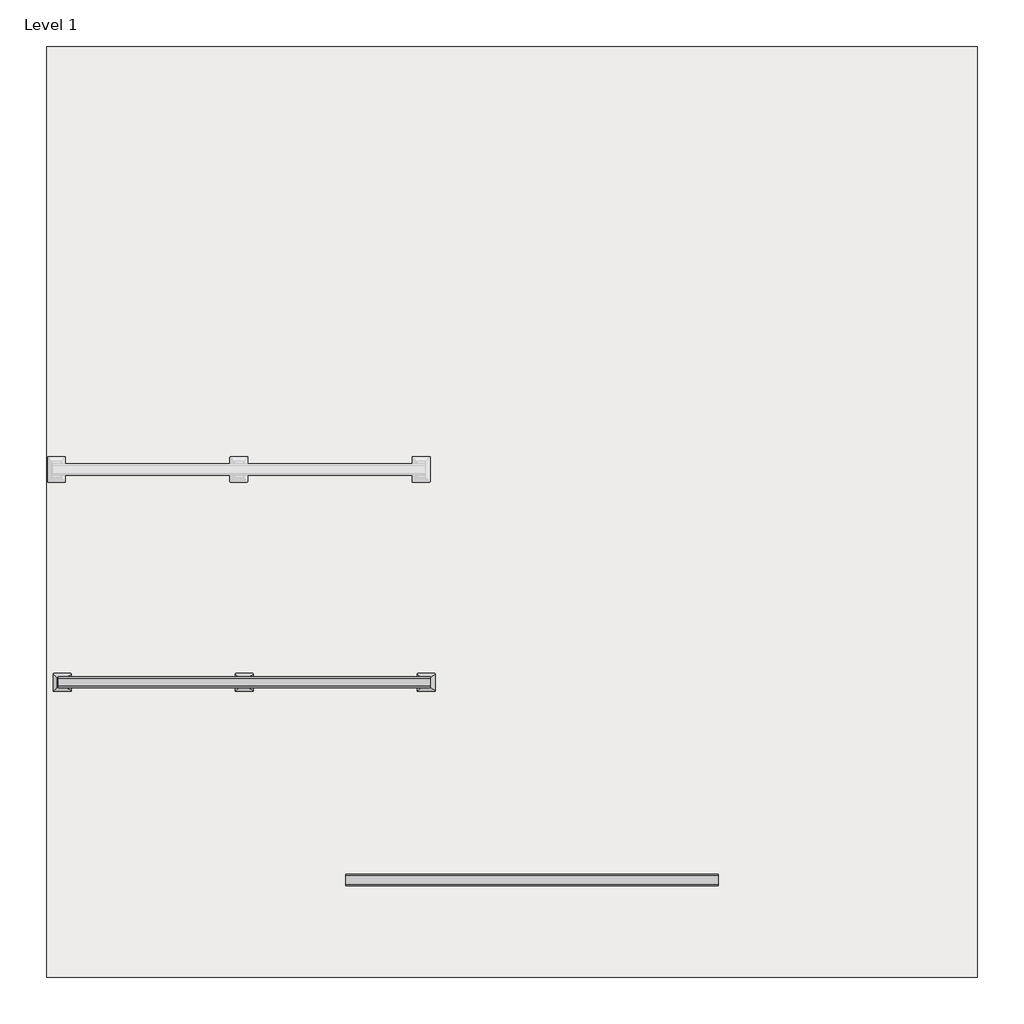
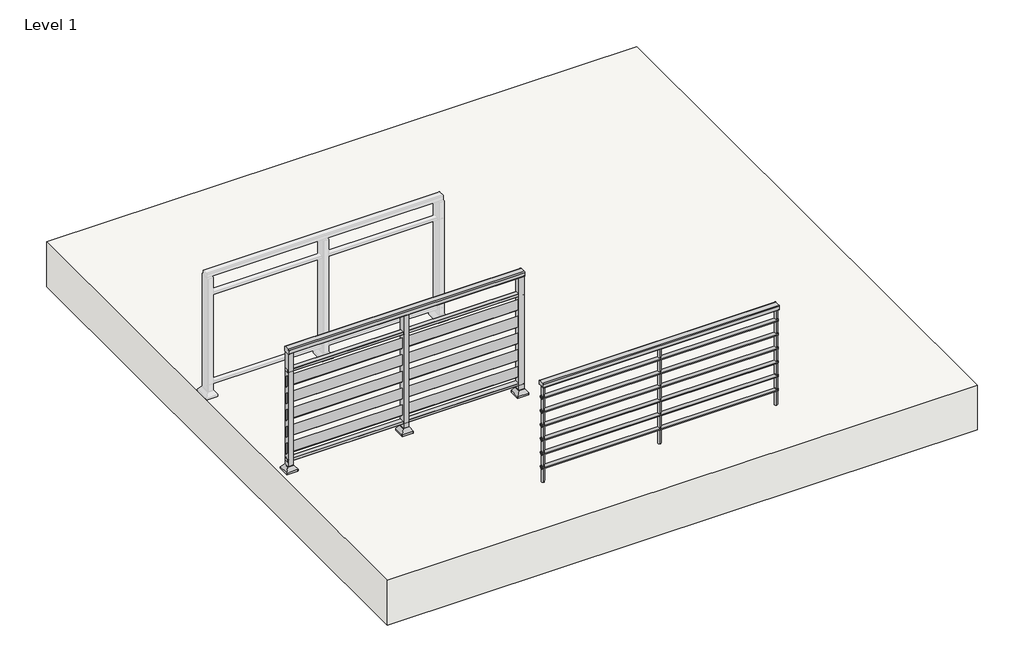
# One storey, part 1 of 2: 2 railings, 1 slab.
"""IFC4 building model written with IfcOpenShell, lengths in millimetres."""

from ifc_helpers import new_model, si_unit, point, frame, frame_2d, origin, origin_with_axes, place, context, project, spatial, polyline, circle_curve, ellipse_curve, trimmed, segment, composite_curve, outline, extrude, element, save
from ifc_brep_helpers import plane_surface, cylinder_surface, advanced_brep

model = new_model("IFC4")

# Units and contexts
model_context = context("Model", 3, world=origin())
ifc_project = project(units=[si_unit("LENGTHUNIT", "METRE", prefix="MILLI")], contexts=[model_context])

# Site, building, storey
site = spatial("IfcSite", under=ifc_project)
building = spatial("IfcBuilding", under=site)
storey = spatial("IfcBuildingStorey", under=building, Name="Level 1", Elevation=0.0)

# Railings
placement = place(None, origin())
element("IfcRailing", 1, ObjectType="900mm Pipe", at=placement, inside=storey, context=model_context, shape_type="SweptSolid", body=[
    extrude(outline(composite_curve([segment(trimmed(circle_curve(frame_2d((-3289.3435229, 892.0)), 8.0), [point((-3289.3435229, 900.0))], [point((-3281.3435229, 892.0))], False, "CARTESIAN"), True, "CONTINUOUS"), segment(polyline([(-3281.3435229, 892.0), (-3281.3435229, 864.0)]), True, "CONTINUOUS"), segment(trimmed(circle_curve(frame_2d((-3285.3435229, 864.0)), 4.0), [point((-3281.3435229, 864.0))], [point((-3285.3435229, 860.0))], False, "CARTESIAN"), True, "CONTINUOUS"), segment(polyline([(-3285.3435229, 860.0), (-3337.3435229, 860.0)]), True, "CONTINUOUS"), segment(trimmed(circle_curve(frame_2d((-3337.3435229, 864.0)), 4.0), [point((-3337.3435229, 860.0))], [point((-3341.3435229, 864.0))], False, "CARTESIAN"), True, "CONTINUOUS"), segment(polyline([(-3341.3435229, 864.0), (-3341.3435229, 892.0)]), True, "CONTINUOUS"), segment(trimmed(circle_curve(frame_2d((-3333.3435229, 892.0)), 8.0), [point((-3341.3435229, 892.0))], [point((-3333.3435229, 900.0))], False, "CARTESIAN"), True, "CONTINUOUS"), segment(polyline([(-3333.3435229, 900.0), (-3289.3435229, 900.0)]), True, "CONTINUOUS")], self_intersect=False)), frame((-1777.4077479, 0.0, 0.0), z_axis=(1.0, 0.0, 0.0), x_axis=(0.0, 1.0, 0.0)), (0.0, 0.0, 1.0), 2000.0),
    extrude(outline(composite_curve([segment(trimmed(circle_curve(frame_2d((-3311.3435229, 760.0)), 15.0), [point((-3296.3435229, 760.0))], [point((-3326.3435229, 760.0))], False, "CARTESIAN"), True, "CONTINUOUS"), segment(trimmed(circle_curve(frame_2d((-3311.3435229, 760.0)), 15.0), [point((-3326.3435229, 760.0))], [point((-3296.3435229, 760.0))], False, "CARTESIAN"), True, "CONTINUOUS")], self_intersect=False)), frame((-1777.4077479, 0.0, 0.0), z_axis=(1.0, 0.0, 0.0), x_axis=(0.0, 1.0, 0.0)), (0.0, 0.0, 1.0), 2000.0),
    extrude(outline(composite_curve([segment(trimmed(circle_curve(frame_2d((-3311.3435229, 635.0)), 15.0), [point((-3296.3435229, 635.0))], [point((-3326.3435229, 635.0))], False, "CARTESIAN"), True, "CONTINUOUS"), segment(trimmed(circle_curve(frame_2d((-3311.3435229, 635.0)), 15.0), [point((-3326.3435229, 635.0))], [point((-3296.3435229, 635.0))], False, "CARTESIAN"), True, "CONTINUOUS")], self_intersect=False)), frame((-1777.4077479, 0.0, 0.0), z_axis=(1.0, 0.0, 0.0), x_axis=(0.0, 1.0, 0.0)), (0.0, 0.0, 1.0), 2000.0),
    extrude(outline(composite_curve([segment(trimmed(circle_curve(frame_2d((-3311.3435229, 510.0)), 15.0), [point((-3296.3435229, 510.0))], [point((-3326.3435229, 510.0))], False, "CARTESIAN"), True, "CONTINUOUS"), segment(trimmed(circle_curve(frame_2d((-3311.3435229, 510.0)), 15.0), [point((-3326.3435229, 510.0))], [point((-3296.3435229, 510.0))], False, "CARTESIAN"), True, "CONTINUOUS")], self_intersect=False)), frame((-1777.4077479, 0.0, 0.0), z_axis=(1.0, 0.0, 0.0), x_axis=(0.0, 1.0, 0.0)), (0.0, 0.0, 1.0), 2000.0),
    extrude(outline(composite_curve([segment(trimmed(circle_curve(frame_2d((-3311.3435229, 385.0)), 15.0), [point((-3296.3435229, 385.0))], [point((-3326.3435229, 385.0))], False, "CARTESIAN"), True, "CONTINUOUS"), segment(trimmed(circle_curve(frame_2d((-3311.3435229, 385.0)), 15.0), [point((-3326.3435229, 385.0))], [point((-3296.3435229, 385.0))], False, "CARTESIAN"), True, "CONTINUOUS")], self_intersect=False)), frame((-1777.4077479, 0.0, 0.0), z_axis=(1.0, 0.0, 0.0), x_axis=(0.0, 1.0, 0.0)), (0.0, 0.0, 1.0), 2000.0),
    extrude(outline(composite_curve([segment(trimmed(circle_curve(frame_2d((-3311.3435229, 260.0)), 15.0), [point((-3296.3435229, 260.0))], [point((-3326.3435229, 260.0))], False, "CARTESIAN"), True, "CONTINUOUS"), segment(trimmed(circle_curve(frame_2d((-3311.3435229, 260.0)), 15.0), [point((-3326.3435229, 260.0))], [point((-3296.3435229, 260.0))], False, "CARTESIAN"), True, "CONTINUOUS")], self_intersect=False)), frame((-1777.4077479, 0.0, 0.0), z_axis=(1.0, 0.0, 0.0), x_axis=(0.0, 1.0, 0.0)), (0.0, 0.0, 1.0), 2000.0),
    extrude(outline(composite_curve([segment(trimmed(circle_curve(frame_2d((-3311.3435229, 135.0)), 15.0), [point((-3296.3435229, 135.0))], [point((-3326.3435229, 135.0))], False, "CARTESIAN"), True, "CONTINUOUS"), segment(trimmed(circle_curve(frame_2d((-3311.3435229, 135.0)), 15.0), [point((-3326.3435229, 135.0))], [point((-3296.3435229, 135.0))], False, "CARTESIAN"), True, "CONTINUOUS")], self_intersect=False)), frame((-1777.4077479, 0.0, 0.0), z_axis=(1.0, 0.0, 0.0), x_axis=(0.0, 1.0, 0.0)), (0.0, 0.0, 1.0), 2000.0),
    extrude(outline(composite_curve([segment(trimmed(circle_curve(frame_2d((-777.4077479, -3311.3435229)), 12.5), [point((-777.4077479, -3298.8435229))], [point((-777.4077479, -3323.8435229))], False, "CARTESIAN"), True, "CONTINUOUS"), segment(trimmed(circle_curve(frame_2d((-777.4077479, -3311.3435229)), 12.5), [point((-777.4077479, -3323.8435229))], [point((-777.4077479, -3298.8435229))], False, "CARTESIAN"), True, "CONTINUOUS")], self_intersect=False)), origin_with_axes(), (0.0, 0.0, 1.0), 860.0),
    extrude(outline(composite_curve([segment(trimmed(circle_curve(frame_2d((210.0922521, -3311.3435229)), 12.5), [point((210.0922521, -3298.8435229))], [point((210.0922521, -3323.8435229))], False, "CARTESIAN"), True, "CONTINUOUS"), segment(trimmed(circle_curve(frame_2d((210.0922521, -3311.3435229)), 12.5), [point((210.0922521, -3323.8435229))], [point((210.0922521, -3298.8435229))], False, "CARTESIAN"), True, "CONTINUOUS")], self_intersect=False)), origin_with_axes(), (0.0, 0.0, 1.0), 860.0),
    extrude(outline(composite_curve([segment(trimmed(circle_curve(frame_2d((-1764.9077479, -3311.3435229)), 12.5), [point((-1764.9077479, -3298.8435229))], [point((-1764.9077479, -3323.8435229))], False, "CARTESIAN"), True, "CONTINUOUS"), segment(trimmed(circle_curve(frame_2d((-1764.9077479, -3311.3435229)), 12.5), [point((-1764.9077479, -3323.8435229))], [point((-1764.9077479, -3298.8435229))], False, "CARTESIAN"), True, "CONTINUOUS")], self_intersect=False)), origin_with_axes(), (0.0, 0.0, 1.0), 860.0),
])
element("IfcRailing", 2, ObjectType="OF 80 - F-1659", at=placement, inside=storey, context=model_context, shape_type="SolidModel", body=[
    extrude(outline(composite_curve([segment(trimmed(circle_curve(frame_2d((-2228.0696061, 1092.0)), 8.0), [point((-2228.0696061, 1100.0))], [point((-2220.0696061, 1092.0))], False, "CARTESIAN"), True, "CONTINUOUS"), segment(polyline([(-2220.0696061, 1092.0), (-2220.0696061, 1064.0)]), True, "CONTINUOUS"), segment(trimmed(circle_curve(frame_2d((-2224.0696061, 1064.0)), 4.0), [point((-2220.0696061, 1064.0))], [point((-2224.0696061, 1060.0))], False, "CARTESIAN"), True, "CONTINUOUS"), segment(polyline([(-2224.0696061, 1060.0), (-2276.0696061, 1060.0)]), True, "CONTINUOUS"), segment(trimmed(circle_curve(frame_2d((-2276.0696061, 1064.0)), 4.0), [point((-2276.0696061, 1060.0))], [point((-2280.0696061, 1064.0))], False, "CARTESIAN"), True, "CONTINUOUS"), segment(polyline([(-2280.0696061, 1064.0), (-2280.0696061, 1092.0)]), True, "CONTINUOUS"), segment(trimmed(circle_curve(frame_2d((-2272.0696061, 1092.0)), 8.0), [point((-2280.0696061, 1092.0))], [point((-2272.0696061, 1100.0))], False, "CARTESIAN"), True, "CONTINUOUS"), segment(polyline([(-2272.0696061, 1100.0), (-2228.0696061, 1100.0)]), True, "CONTINUOUS")], self_intersect=False)), frame((-3322.8730254, 0.0, 0.0), z_axis=(1.0, 0.0, 0.0), x_axis=(0.0, 1.0, 0.0)), (0.0, 0.0, 1.0), 2000.0),
    extrude(outline(composite_curve([segment(trimmed(circle_curve(frame_2d((-2269.1696061, 890.1)), 1.0), [point((-2269.1696061, 889.1))], [point((-2270.1696061, 890.1))], False, "CARTESIAN"), True, "CONTINUOUS"), segment(polyline([(-2270.1696061, 890.1), (-2270.1696061, 909.9)]), True, "CONTINUOUS"), segment(trimmed(circle_curve(frame_2d((-2269.1696061, 909.9)), 1.0), [point((-2270.1696061, 909.9))], [point((-2269.1696061, 910.9))], False, "CARTESIAN"), True, "CONTINUOUS"), segment(polyline([(-2269.1696061, 910.9), (-2230.9696061, 910.9)]), True, "CONTINUOUS"), segment(trimmed(circle_curve(frame_2d((-2230.9696061, 909.9)), 1.0), [point((-2230.9696061, 910.9))], [point((-2229.9696061, 909.9))], False, "CARTESIAN"), True, "CONTINUOUS"), segment(polyline([(-2229.9696061, 909.9), (-2229.9696061, 890.1)]), True, "CONTINUOUS"), segment(trimmed(circle_curve(frame_2d((-2230.9696061, 890.1)), 1.0), [point((-2229.9696061, 890.1))], [point((-2230.9696061, 889.1))], False, "CARTESIAN"), True, "CONTINUOUS"), segment(polyline([(-2230.9696061, 889.1), (-2269.1696061, 889.1)]), True, "CONTINUOUS")], self_intersect=False)), frame((-3322.8730254, 0.0, 0.0), z_axis=(1.0, 0.0, 0.0), x_axis=(0.0, 1.0, 0.0)), (0.0, 0.0, 1.0), 2000.0),
    extrude(outline(polyline([(-2257.8696061, 855.5657048), (-2242.2696061, 839.9657048), (-2242.2696061, 744.434334), (-2257.8696061, 760.034334), (-2257.8696061, 855.5657048)])), frame((-3322.8730254, 0.0, 0.0), z_axis=(1.0, 0.0, 0.0), x_axis=(0.0, 1.0, 0.0)), (0.0, 0.0, 1.0), 2000.0),
    extrude(outline(polyline([(-2257.8696061, 705.5657048), (-2242.2696061, 689.9657048), (-2242.2696061, 594.434334), (-2257.8696061, 610.034334), (-2257.8696061, 705.5657048)])), frame((-3322.8730254, 0.0, 0.0), z_axis=(1.0, 0.0, 0.0), x_axis=(0.0, 1.0, 0.0)), (0.0, 0.0, 1.0), 2000.0),
    extrude(outline(polyline([(-2257.8696061, 555.5657048), (-2242.2696061, 539.9657048), (-2242.2696061, 444.434334), (-2257.8696061, 460.034334), (-2257.8696061, 555.5657048)])), frame((-3322.8730254, 0.0, 0.0), z_axis=(1.0, 0.0, 0.0), x_axis=(0.0, 1.0, 0.0)), (0.0, 0.0, 1.0), 2000.0),
    extrude(outline(polyline([(-2257.8696061, 405.5657048), (-2242.2696061, 389.9657048), (-2242.2696061, 294.434334), (-2257.8696061, 310.034334), (-2257.8696061, 405.5657048)])), frame((-3322.8730254, 0.0, 0.0), z_axis=(1.0, 0.0, 0.0), x_axis=(0.0, 1.0, 0.0)), (0.0, 0.0, 1.0), 2000.0),
    extrude(outline(polyline([(-2257.8696061, 255.5657048), (-2242.2696061, 239.9657048), (-2242.2696061, 144.434334), (-2257.8696061, 160.034334), (-2257.8696061, 255.5657048)])), frame((-3322.8730254, 0.0, 0.0), z_axis=(1.0, 0.0, 0.0), x_axis=(0.0, 1.0, 0.0)), (0.0, 0.0, 1.0), 2000.0),
    extrude(outline(composite_curve([segment(trimmed(circle_curve(frame_2d((-2269.1696061, 90.1)), 1.0), [point((-2269.1696061, 89.1))], [point((-2270.1696061, 90.1))], False, "CARTESIAN"), True, "CONTINUOUS"), segment(polyline([(-2270.1696061, 90.1), (-2270.1696061, 109.9)]), True, "CONTINUOUS"), segment(trimmed(circle_curve(frame_2d((-2269.1696061, 109.9)), 1.0), [point((-2270.1696061, 109.9))], [point((-2269.1696061, 110.9))], False, "CARTESIAN"), True, "CONTINUOUS"), segment(polyline([(-2269.1696061, 110.9), (-2230.9696061, 110.9)]), True, "CONTINUOUS"), segment(trimmed(circle_curve(frame_2d((-2230.9696061, 109.9)), 1.0), [point((-2230.9696061, 110.9))], [point((-2229.9696061, 109.9))], False, "CARTESIAN"), True, "CONTINUOUS"), segment(polyline([(-2229.9696061, 109.9), (-2229.9696061, 90.1)]), True, "CONTINUOUS"), segment(trimmed(circle_curve(frame_2d((-2230.9696061, 90.1)), 1.0), [point((-2229.9696061, 90.1))], [point((-2230.9696061, 89.1))], False, "CARTESIAN"), True, "CONTINUOUS"), segment(polyline([(-2230.9696061, 89.1), (-2269.1696061, 89.1)]), True, "CONTINUOUS")], self_intersect=False)), frame((-3322.8730254, 0.0, 0.0), z_axis=(1.0, 0.0, 0.0), x_axis=(0.0, 1.0, 0.0)), (0.0, 0.0, 1.0), 2000.0),
    advanced_brep(
    [(-2348.616675, -2275.0696061, 50.0), (-2297.8730254, -2275.0696061, 50.0), (-2297.8730254, -2225.0696061, 50.0), (-2348.616675, -2225.0696061, 50.0), (-2368.616675, -2298.0696061, 0.0), (-2371.616675, -2295.0696061, 0.0), (-2371.616675, -2205.0696061, 0.0), (-2368.616675, -2202.0696061, 0.0), (-2277.8730254, -2202.0696061, 0.0), (-2274.8730254, -2205.0696061, 0.0), (-2274.8730254, -2295.0696061, 0.0), (-2277.8730254, -2298.0696061, 0.0), (-2277.8730254, -2298.0696061, 17.0), (-2368.616675, -2298.0696061, 17.0), (-2274.8730254, -2205.0696061, 17.0), (-2274.8730254, -2295.0696061, 17.0), (-2368.616675, -2202.0696061, 17.0), (-2277.8730254, -2202.0696061, 17.0), (-2371.616675, -2295.0696061, 17.0), (-2371.616675, -2205.0696061, 17.0), (-2275.7517051, -2297.1909265, 18.2607143), (-2275.7517051, -2202.9482858, 18.2607143), (-2370.7379953, -2202.9482858, 18.2607143), (-2370.7379953, -2297.1909265, 18.2607143)],
    [
        (0, 1),
        (1, 2),
        (2, 3),
        (3, 0),
        (4, 5, circle_curve(frame((-2368.616675, -2295.0696061, 0.0), z_axis=(0.0, 0.0, -1.0), x_axis=(0.0, 1.0, 0.0)), 3.0)),
        (5, 6),
        (6, 7, circle_curve(frame((-2368.616675, -2205.0696061, 0.0), z_axis=(0.0, 0.0, -1.0), x_axis=(0.0, 1.0, 0.0)), 3.0)),
        (7, 8),
        (8, 9, circle_curve(frame((-2277.8730254, -2205.0696061, 0.0), z_axis=(0.0, 0.0, -1.0), x_axis=(0.0, 1.0, 0.0)), 3.0)),
        (9, 10),
        (10, 11, circle_curve(frame((-2277.8730254, -2295.0696061, 0.0), z_axis=(0.0, 0.0, -1.0), x_axis=(0.0, 1.0, 0.0)), 3.0)),
        (11, 4),
        (11, 12),
        (12, 13),
        (13, 4),
        (9, 14),
        (14, 15),
        (15, 10),
        (7, 16),
        (16, 17),
        (17, 8),
        (5, 18),
        (18, 19),
        (19, 6),
        (15, 20, ellipse_curve(frame((-2277.8730254, -2295.0696061, 21.3043478), z_axis=(-0.8203981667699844, 0.0, -0.571792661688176), x_axis=(-0.5717926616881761, 0.0, 0.8203981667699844)), 5.2466571, 3.0)),
        (20, 12, ellipse_curve(frame((-2277.8730254, -2295.0696061, 21.3043478), z_axis=(0.0, 0.8203981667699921, -0.571792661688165), x_axis=(0.0, 0.5717926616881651, 0.8203981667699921)), 5.2466571, 3.0)),
        (17, 21, ellipse_curve(frame((-2277.8730254, -2205.0696061, 21.3043478), z_axis=(0.0, -0.820398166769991, -0.5717926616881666), x_axis=(0.0, -0.5717926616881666, 0.820398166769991)), 5.2466571, 3.0)),
        (21, 14, ellipse_curve(frame((-2277.8730254, -2205.0696061, 21.3043478), z_axis=(-0.8203981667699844, 0.0, -0.571792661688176), x_axis=(-0.5717926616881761, 0.0, 0.8203981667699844)), 5.2466571, 3.0)),
        (19, 22, ellipse_curve(frame((-2368.616675, -2205.0696061, 21.3043478), z_axis=(0.8203981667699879, 0.0, -0.571792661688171), x_axis=(0.571792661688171, 0.0, 0.8203981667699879)), 5.2466571, 3.0)),
        (22, 16, ellipse_curve(frame((-2368.616675, -2205.0696061, 21.3043478), z_axis=(0.0, -0.820398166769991, -0.5717926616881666), x_axis=(0.0, -0.5717926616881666, 0.820398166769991)), 5.2466571, 3.0)),
        (13, 23, ellipse_curve(frame((-2368.616675, -2295.0696061, 21.3043478), z_axis=(0.0, 0.8203981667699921, -0.571792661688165), x_axis=(0.0, 0.5717926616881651, 0.8203981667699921)), 5.2466571, 3.0)),
        (23, 18, ellipse_curve(frame((-2368.616675, -2295.0696061, 21.3043478), z_axis=(0.8203981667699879, 0.0, -0.571792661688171), x_axis=(0.571792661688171, 0.0, 0.8203981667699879)), 5.2466571, 3.0)),
        (21, 2),
        (1, 20),
        (23, 0),
        (3, 22),
    ],
    [
        plane_surface(frame((-2541.9206383, -2298.0696061, 50.0), z_axis=(0.0, 0.0, 1.0), x_axis=(1.0, 0.0, 0.0))),
        plane_surface(frame((-2541.9206383, -2298.0696061, 0.0), z_axis=(0.0, 0.0, -1.0), x_axis=(-1.0, 0.0, 0.0))),
        plane_surface(frame((-2368.616675, -2298.0696061, 50.0), z_axis=(0.0, -1.0, 0.0), x_axis=(0.0, 0.0, -1.0))),
        plane_surface(frame((-2274.8730254, -2295.0696061, 50.0), z_axis=(1.0, 0.0, 0.0), x_axis=(0.0, 0.0, -1.0))),
        plane_surface(frame((-2277.8730254, -2202.0696061, 50.0), z_axis=(0.0, 1.0, 0.0), x_axis=(0.0, 0.0, -1.0))),
        plane_surface(frame((-2371.616675, -2205.0696061, 50.0), z_axis=(-1.0, 0.0, 0.0), x_axis=(0.0, 0.0, -1.0))),
        cylinder_surface(frame((-2277.8730254, -2295.0696061, 0.0), z_axis=(0.0, 0.0, 1.0), x_axis=(0.0, 1.0, 0.0)), 3.0),
        cylinder_surface(frame((-2277.8730254, -2205.0696061, 0.0), z_axis=(0.0, 0.0, 1.0), x_axis=(0.0, 1.0, 0.0)), 3.0),
        cylinder_surface(frame((-2368.616675, -2205.0696061, 0.0), z_axis=(0.0, 0.0, 1.0), x_axis=(0.0, 1.0, 0.0)), 3.0),
        cylinder_surface(frame((-2368.616675, -2295.0696061, 0.0), z_axis=(0.0, 0.0, 1.0), x_axis=(0.0, 1.0, 0.0)), 3.0),
        plane_surface(frame((-2274.8730254, -2202.0696061, 17.0), z_axis=(0.8203981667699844, 0.0, 0.571792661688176), x_axis=(0.0, -1.0, 0.0))),
        plane_surface(frame((-2348.616675, -2202.0696061, 50.0), z_axis=(-0.8203981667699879, 0.0, 0.571792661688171), x_axis=(0.0, -1.0, 0.0))),
        plane_surface(frame((-2274.8730254, -2298.0696061, 17.0), z_axis=(0.0, -0.8203981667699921, 0.571792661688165), x_axis=(-1.0, 0.0, 0.0))),
        plane_surface(frame((-2274.8730254, -2225.0696061, 50.0), z_axis=(0.0, 0.820398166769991, 0.5717926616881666), x_axis=(-1.0, 0.0, 0.0))),
    ],
    [
        (0, [[1, 2, 3, 4]]),
        (1, [[5, 6, 7, 8, 9, 10, 11, 12]]),
        (2, [[-12, 13, 14, 15]]),
        (3, [[-10, 16, 17, 18]]),
        (4, [[-8, 19, 20, 21]]),
        (5, [[-6, 22, 23, 24]]),
        (6, [[-11, -18, 25, 26, -13]]),
        (7, [[-9, -21, 27, 28, -16]]),
        (8, [[-7, -24, 29, 30, -19]]),
        (9, [[-5, -15, 31, 32, -22]]),
        (10, [[-17, -28, 33, -2, 34, -25]]),
        (11, [[-23, -32, 35, -4, 36, -29]]),
        (12, [[-1, -35, -31, -14, -26, -34]]),
        (13, [[-3, -33, -27, -20, -30, -36]]),
    ],
),
    extrude(outline(polyline([(-2345.3730254, -2227.5696061), (-2300.3730254, -2227.5696061), (-2300.3730254, -2272.5696061), (-2345.3730254, -2272.5696061), (-2345.3730254, -2227.5696061)])), frame((0.0, 0.0, 50.0), z_axis=(0.0, 0.0, 1.0), x_axis=(1.0, 0.0, 0.0)), (0.0, 0.0, 1.0), 1010.0),
    advanced_brep(
    [(-1371.116675, -2275.0696061, 50.0), (-1320.3730254, -2275.0696061, 50.0), (-1320.3730254, -2225.0696061, 50.0), (-1371.116675, -2225.0696061, 50.0), (-1391.116675, -2298.0696061, 0.0), (-1394.116675, -2295.0696061, 0.0), (-1394.116675, -2205.0696061, 0.0), (-1391.116675, -2202.0696061, 0.0), (-1300.3730254, -2202.0696061, 0.0), (-1297.3730254, -2205.0696061, 0.0), (-1297.3730254, -2295.0696061, 0.0), (-1300.3730254, -2298.0696061, 0.0), (-1300.3730254, -2298.0696061, 17.0), (-1391.116675, -2298.0696061, 17.0), (-1297.3730254, -2205.0696061, 17.0), (-1297.3730254, -2295.0696061, 17.0), (-1391.116675, -2202.0696061, 17.0), (-1300.3730254, -2202.0696061, 17.0), (-1394.116675, -2295.0696061, 17.0), (-1394.116675, -2205.0696061, 17.0), (-1298.2517051, -2297.1909265, 18.2607143), (-1298.2517051, -2202.9482858, 18.2607143), (-1393.2379953, -2202.9482858, 18.2607143), (-1393.2379953, -2297.1909265, 18.2607143)],
    [
        (0, 1),
        (1, 2),
        (2, 3),
        (3, 0),
        (4, 5, circle_curve(frame((-1391.116675, -2295.0696061, 0.0), z_axis=(0.0, 0.0, -1.0), x_axis=(0.0, 1.0, 0.0)), 3.0)),
        (5, 6),
        (6, 7, circle_curve(frame((-1391.116675, -2205.0696061, 0.0), z_axis=(0.0, 0.0, -1.0), x_axis=(0.0, 1.0, 0.0)), 3.0)),
        (7, 8),
        (8, 9, circle_curve(frame((-1300.3730254, -2205.0696061, 0.0), z_axis=(0.0, 0.0, -1.0), x_axis=(0.0, 1.0, 0.0)), 3.0)),
        (9, 10),
        (10, 11, circle_curve(frame((-1300.3730254, -2295.0696061, 0.0), z_axis=(0.0, 0.0, -1.0), x_axis=(0.0, 1.0, 0.0)), 3.0)),
        (11, 4),
        (11, 12),
        (12, 13),
        (13, 4),
        (9, 14),
        (14, 15),
        (15, 10),
        (7, 16),
        (16, 17),
        (17, 8),
        (5, 18),
        (18, 19),
        (19, 6),
        (15, 20, ellipse_curve(frame((-1300.3730254, -2295.0696061, 21.3043478), z_axis=(-0.8203981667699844, 0.0, -0.571792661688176), x_axis=(-0.5717926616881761, 0.0, 0.8203981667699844)), 5.2466571, 3.0)),
        (20, 12, ellipse_curve(frame((-1300.3730254, -2295.0696061, 21.3043478), z_axis=(0.0, 0.8203981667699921, -0.571792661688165), x_axis=(0.0, 0.5717926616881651, 0.8203981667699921)), 5.2466571, 3.0)),
        (17, 21, ellipse_curve(frame((-1300.3730254, -2205.0696061, 21.3043478), z_axis=(0.0, -0.820398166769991, -0.5717926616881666), x_axis=(0.0, -0.5717926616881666, 0.820398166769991)), 5.2466571, 3.0)),
        (21, 14, ellipse_curve(frame((-1300.3730254, -2205.0696061, 21.3043478), z_axis=(-0.8203981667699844, 0.0, -0.571792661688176), x_axis=(-0.5717926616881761, 0.0, 0.8203981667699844)), 5.2466571, 3.0)),
        (19, 22, ellipse_curve(frame((-1391.116675, -2205.0696061, 21.3043478), z_axis=(0.8203981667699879, 0.0, -0.571792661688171), x_axis=(0.571792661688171, 0.0, 0.8203981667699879)), 5.2466571, 3.0)),
        (22, 16, ellipse_curve(frame((-1391.116675, -2205.0696061, 21.3043478), z_axis=(0.0, -0.820398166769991, -0.5717926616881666), x_axis=(0.0, -0.5717926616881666, 0.820398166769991)), 5.2466571, 3.0)),
        (13, 23, ellipse_curve(frame((-1391.116675, -2295.0696061, 21.3043478), z_axis=(0.0, 0.8203981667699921, -0.571792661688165), x_axis=(0.0, 0.5717926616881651, 0.8203981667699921)), 5.2466571, 3.0)),
        (23, 18, ellipse_curve(frame((-1391.116675, -2295.0696061, 21.3043478), z_axis=(0.8203981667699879, 0.0, -0.571792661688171), x_axis=(0.571792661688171, 0.0, 0.8203981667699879)), 5.2466571, 3.0)),
        (21, 2),
        (1, 20),
        (23, 0),
        (3, 22),
    ],
    [
        plane_surface(frame((-1564.4206383, -2298.0696061, 50.0), z_axis=(0.0, 0.0, 1.0), x_axis=(1.0, 0.0, 0.0))),
        plane_surface(frame((-1564.4206383, -2298.0696061, 0.0), z_axis=(0.0, 0.0, -1.0), x_axis=(-1.0, 0.0, 0.0))),
        plane_surface(frame((-1391.116675, -2298.0696061, 50.0), z_axis=(0.0, -1.0, 0.0), x_axis=(0.0, 0.0, -1.0))),
        plane_surface(frame((-1297.3730254, -2295.0696061, 50.0), z_axis=(1.0, 0.0, 0.0), x_axis=(0.0, 0.0, -1.0))),
        plane_surface(frame((-1300.3730254, -2202.0696061, 50.0), z_axis=(0.0, 1.0, 0.0), x_axis=(0.0, 0.0, -1.0))),
        plane_surface(frame((-1394.116675, -2205.0696061, 50.0), z_axis=(-1.0, 0.0, 0.0), x_axis=(0.0, 0.0, -1.0))),
        cylinder_surface(frame((-1300.3730254, -2295.0696061, 0.0), z_axis=(0.0, 0.0, 1.0), x_axis=(0.0, 1.0, 0.0)), 3.0),
        cylinder_surface(frame((-1300.3730254, -2205.0696061, 0.0), z_axis=(0.0, 0.0, 1.0), x_axis=(0.0, 1.0, 0.0)), 3.0),
        cylinder_surface(frame((-1391.116675, -2205.0696061, 0.0), z_axis=(0.0, 0.0, 1.0), x_axis=(0.0, 1.0, 0.0)), 3.0),
        cylinder_surface(frame((-1391.116675, -2295.0696061, 0.0), z_axis=(0.0, 0.0, 1.0), x_axis=(0.0, 1.0, 0.0)), 3.0),
        plane_surface(frame((-1297.3730254, -2202.0696061, 17.0), z_axis=(0.8203981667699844, 0.0, 0.571792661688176), x_axis=(0.0, -1.0, 0.0))),
        plane_surface(frame((-1371.116675, -2202.0696061, 50.0), z_axis=(-0.8203981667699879, 0.0, 0.571792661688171), x_axis=(0.0, -1.0, 0.0))),
        plane_surface(frame((-1297.3730254, -2298.0696061, 17.0), z_axis=(0.0, -0.8203981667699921, 0.571792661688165), x_axis=(-1.0, 0.0, 0.0))),
        plane_surface(frame((-1297.3730254, -2225.0696061, 50.0), z_axis=(0.0, 0.820398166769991, 0.5717926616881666), x_axis=(-1.0, 0.0, 0.0))),
    ],
    [
        (0, [[1, 2, 3, 4]]),
        (1, [[5, 6, 7, 8, 9, 10, 11, 12]]),
        (2, [[-12, 13, 14, 15]]),
        (3, [[-10, 16, 17, 18]]),
        (4, [[-8, 19, 20, 21]]),
        (5, [[-6, 22, 23, 24]]),
        (6, [[-11, -18, 25, 26, -13]]),
        (7, [[-9, -21, 27, 28, -16]]),
        (8, [[-7, -24, 29, 30, -19]]),
        (9, [[-5, -15, 31, 32, -22]]),
        (10, [[-17, -28, 33, -2, 34, -25]]),
        (11, [[-23, -32, 35, -4, 36, -29]]),
        (12, [[-1, -35, -31, -14, -26, -34]]),
        (13, [[-3, -33, -27, -20, -30, -36]]),
    ],
),
    extrude(outline(polyline([(-1367.8730254, -2227.5696061), (-1322.8730254, -2227.5696061), (-1322.8730254, -2272.5696061), (-1367.8730254, -2272.5696061), (-1367.8730254, -2227.5696061)])), frame((0.0, 0.0, 50.0), z_axis=(0.0, 0.0, 1.0), x_axis=(1.0, 0.0, 0.0)), (0.0, 0.0, 1.0), 1010.0),
    advanced_brep(
    [(-3326.116675, -2275.0696061, 50.0), (-3275.3730254, -2275.0696061, 50.0), (-3275.3730254, -2225.0696061, 50.0), (-3326.116675, -2225.0696061, 50.0), (-3346.116675, -2298.0696061, 0.0), (-3349.116675, -2295.0696061, 0.0), (-3349.116675, -2205.0696061, 0.0), (-3346.116675, -2202.0696061, 0.0), (-3255.3730254, -2202.0696061, 0.0), (-3252.3730254, -2205.0696061, 0.0), (-3252.3730254, -2295.0696061, 0.0), (-3255.3730254, -2298.0696061, 0.0), (-3255.3730254, -2298.0696061, 17.0), (-3346.116675, -2298.0696061, 17.0), (-3252.3730254, -2205.0696061, 17.0), (-3252.3730254, -2295.0696061, 17.0), (-3346.116675, -2202.0696061, 17.0), (-3255.3730254, -2202.0696061, 17.0), (-3349.116675, -2295.0696061, 17.0), (-3349.116675, -2205.0696061, 17.0), (-3253.2517051, -2297.1909265, 18.2607143), (-3253.2517051, -2202.9482858, 18.2607143), (-3348.2379953, -2202.9482858, 18.2607143), (-3348.2379953, -2297.1909265, 18.2607143)],
    [
        (0, 1),
        (1, 2),
        (2, 3),
        (3, 0),
        (4, 5, circle_curve(frame((-3346.116675, -2295.0696061, 0.0), z_axis=(0.0, 0.0, -1.0), x_axis=(0.0, 1.0, 0.0)), 3.0)),
        (5, 6),
        (6, 7, circle_curve(frame((-3346.116675, -2205.0696061, 0.0), z_axis=(0.0, 0.0, -1.0), x_axis=(0.0, 1.0, 0.0)), 3.0)),
        (7, 8),
        (8, 9, circle_curve(frame((-3255.3730254, -2205.0696061, 0.0), z_axis=(0.0, 0.0, -1.0), x_axis=(0.0, 1.0, 0.0)), 3.0)),
        (9, 10),
        (10, 11, circle_curve(frame((-3255.3730254, -2295.0696061, 0.0), z_axis=(0.0, 0.0, -1.0), x_axis=(0.0, 1.0, 0.0)), 3.0)),
        (11, 4),
        (11, 12),
        (12, 13),
        (13, 4),
        (9, 14),
        (14, 15),
        (15, 10),
        (7, 16),
        (16, 17),
        (17, 8),
        (5, 18),
        (18, 19),
        (19, 6),
        (15, 20, ellipse_curve(frame((-3255.3730254, -2295.0696061, 21.3043478), z_axis=(-0.8203981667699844, 0.0, -0.571792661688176), x_axis=(-0.5717926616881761, 0.0, 0.8203981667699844)), 5.2466571, 3.0)),
        (20, 12, ellipse_curve(frame((-3255.3730254, -2295.0696061, 21.3043478), z_axis=(0.0, 0.8203981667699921, -0.571792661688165), x_axis=(0.0, 0.5717926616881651, 0.8203981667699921)), 5.2466571, 3.0)),
        (17, 21, ellipse_curve(frame((-3255.3730254, -2205.0696061, 21.3043478), z_axis=(0.0, -0.820398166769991, -0.5717926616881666), x_axis=(0.0, -0.5717926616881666, 0.820398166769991)), 5.2466571, 3.0)),
        (21, 14, ellipse_curve(frame((-3255.3730254, -2205.0696061, 21.3043478), z_axis=(-0.8203981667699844, 0.0, -0.571792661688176), x_axis=(-0.5717926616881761, 0.0, 0.8203981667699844)), 5.2466571, 3.0)),
        (19, 22, ellipse_curve(frame((-3346.116675, -2205.0696061, 21.3043478), z_axis=(0.8203981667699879, 0.0, -0.571792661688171), x_axis=(0.571792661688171, 0.0, 0.8203981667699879)), 5.2466571, 3.0)),
        (22, 16, ellipse_curve(frame((-3346.116675, -2205.0696061, 21.3043478), z_axis=(0.0, -0.820398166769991, -0.5717926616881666), x_axis=(0.0, -0.5717926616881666, 0.820398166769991)), 5.2466571, 3.0)),
        (13, 23, ellipse_curve(frame((-3346.116675, -2295.0696061, 21.3043478), z_axis=(0.0, 0.8203981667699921, -0.571792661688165), x_axis=(0.0, 0.5717926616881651, 0.8203981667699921)), 5.2466571, 3.0)),
        (23, 18, ellipse_curve(frame((-3346.116675, -2295.0696061, 21.3043478), z_axis=(0.8203981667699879, 0.0, -0.571792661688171), x_axis=(0.571792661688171, 0.0, 0.8203981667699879)), 5.2466571, 3.0)),
        (21, 2),
        (1, 20),
        (23, 0),
        (3, 22),
    ],
    [
        plane_surface(frame((-3519.4206383, -2298.0696061, 50.0), z_axis=(0.0, 0.0, 1.0), x_axis=(1.0, 0.0, 0.0))),
        plane_surface(frame((-3519.4206383, -2298.0696061, 0.0), z_axis=(0.0, 0.0, -1.0), x_axis=(-1.0, 0.0, 0.0))),
        plane_surface(frame((-3346.116675, -2298.0696061, 50.0), z_axis=(0.0, -1.0, 0.0), x_axis=(0.0, 0.0, -1.0))),
        plane_surface(frame((-3252.3730254, -2295.0696061, 50.0), z_axis=(1.0, 0.0, 0.0), x_axis=(0.0, 0.0, -1.0))),
        plane_surface(frame((-3255.3730254, -2202.0696061, 50.0), z_axis=(0.0, 1.0, 0.0), x_axis=(0.0, 0.0, -1.0))),
        plane_surface(frame((-3349.116675, -2205.0696061, 50.0), z_axis=(-1.0, 0.0, 0.0), x_axis=(0.0, 0.0, -1.0))),
        cylinder_surface(frame((-3255.3730254, -2295.0696061, 0.0), z_axis=(0.0, 0.0, 1.0), x_axis=(0.0, 1.0, 0.0)), 3.0),
        cylinder_surface(frame((-3255.3730254, -2205.0696061, 0.0), z_axis=(0.0, 0.0, 1.0), x_axis=(0.0, 1.0, 0.0)), 3.0),
        cylinder_surface(frame((-3346.116675, -2205.0696061, 0.0), z_axis=(0.0, 0.0, 1.0), x_axis=(0.0, 1.0, 0.0)), 3.0),
        cylinder_surface(frame((-3346.116675, -2295.0696061, 0.0), z_axis=(0.0, 0.0, 1.0), x_axis=(0.0, 1.0, 0.0)), 3.0),
        plane_surface(frame((-3252.3730254, -2202.0696061, 17.0), z_axis=(0.8203981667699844, 0.0, 0.571792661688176), x_axis=(0.0, -1.0, 0.0))),
        plane_surface(frame((-3326.116675, -2202.0696061, 50.0), z_axis=(-0.8203981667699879, 0.0, 0.571792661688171), x_axis=(0.0, -1.0, 0.0))),
        plane_surface(frame((-3252.3730254, -2298.0696061, 17.0), z_axis=(0.0, -0.8203981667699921, 0.571792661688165), x_axis=(-1.0, 0.0, 0.0))),
        plane_surface(frame((-3252.3730254, -2225.0696061, 50.0), z_axis=(0.0, 0.820398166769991, 0.5717926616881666), x_axis=(-1.0, 0.0, 0.0))),
    ],
    [
        (0, [[1, 2, 3, 4]]),
        (1, [[5, 6, 7, 8, 9, 10, 11, 12]]),
        (2, [[-12, 13, 14, 15]]),
        (3, [[-10, 16, 17, 18]]),
        (4, [[-8, 19, 20, 21]]),
        (5, [[-6, 22, 23, 24]]),
        (6, [[-11, -18, 25, 26, -13]]),
        (7, [[-9, -21, 27, 28, -16]]),
        (8, [[-7, -24, 29, 30, -19]]),
        (9, [[-5, -15, 31, 32, -22]]),
        (10, [[-17, -28, 33, -2, 34, -25]]),
        (11, [[-23, -32, 35, -4, 36, -29]]),
        (12, [[-1, -35, -31, -14, -26, -34]]),
        (13, [[-3, -33, -27, -20, -30, -36]]),
    ],
),
    extrude(outline(polyline([(-3322.8730254, -2227.5696061), (-3277.8730254, -2227.5696061), (-3277.8730254, -2272.5696061), (-3322.8730254, -2272.5696061), (-3322.8730254, -2227.5696061)])), frame((0.0, 0.0, 50.0), z_axis=(0.0, 0.0, 1.0), x_axis=(1.0, 0.0, 0.0)), (0.0, 0.0, 1.0), 1010.0),
])

# Slab
element("IfcSlab", 3, ObjectType="Generic Floor - 400mm", at=placement, inside=storey, context=model_context, shape_type="SweptSolid", body=[
    extrude(outline(polyline([(1615.0956505, -3834.7088678), (-3384.9043495, -3834.7088678), (-3384.9043495, 1165.2911322), (1615.0956505, 1165.2911322), (1615.0956505, -3834.7088678)])), frame((0.0, 0.0, -400.0), z_axis=(0.0, 0.0, 1.0), x_axis=(1.0, 0.0, 0.0)), (0.0, 0.0, 1.0), 400.0),
])

save(model, "model.ifc")
